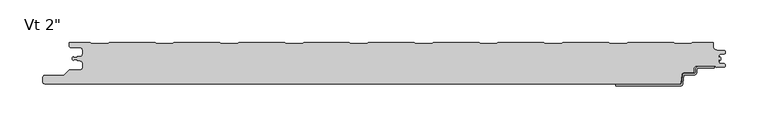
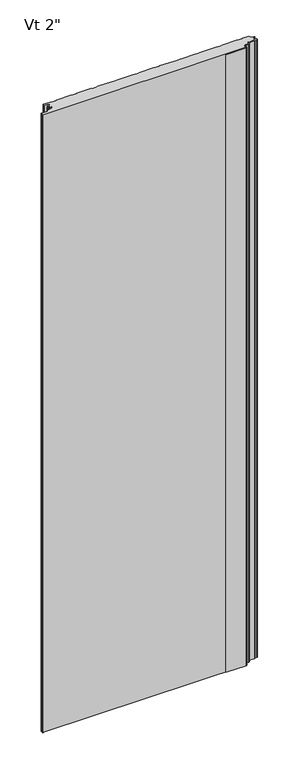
"""IFC4 building model written with IfcOpenShell, lengths in millimetres: plate geometry."""

from ifc_helpers import new_model, si_unit, frame, origin, place, context, project, spatial, polyline, circle_curve, source, transform, mapped, element, save
from ifc_brep_helpers import plane_surface, cylinder_surface, revolved_surface, advanced_brep


def plate_afb5f473(model_context):
    return source(origin(), model_context, "Body", "AdvancedBrep", [
        advanced_brep(
        [(354.8464083, -29.7008679, 0.0), (373.5916083, -29.7008679, 0.0), (373.5916083, -31.2248679, 0.0), (354.8464083, -31.2248679, 0.0), (353.3224083, -32.7488679, 0.0), (353.3224083, -35.8476679, 0.0), (349.8680083, -39.3020679, 0.0), (338.655451, -39.3020679, 0.0), (337.8963506, -39.9976552, 0.0), (336.701523, -49.5416507, 0.0), (333.6651216, -52.324, 0.0), (258.0978083, -52.3360323, 0.0), (258.0978083, -50.8, 0.0), (333.6651216, -50.8, 0.0), (335.1833223, -49.4088254, 0.0), (336.3781499, -39.8648299, 0.0), (338.655451, -37.7780679, 0.0), (349.8680083, -37.7780679, 0.0), (351.7984083, -35.8476679, 0.0), (351.7984083, -32.7488679, 0.0), (354.8464083, -29.7008679, 2400.0), (351.7984083, -32.7488679, 2400.0), (351.7984083, -35.8476679, 2400.0), (349.8680083, -37.7780679, 2400.0), (338.655451, -37.7780679, 2400.0), (336.3781499, -39.8648299, 2400.0), (335.1833223, -49.4088254, 2400.0), (333.6651216, -50.8, 2400.0), (258.0978083, -50.8, 2400.0), (258.0978083, -52.3360323, 2400.0), (333.6651216, -52.3360323, 2400.0), (336.701523, -49.5416507, 2400.0), (337.8963506, -39.9976552, 2400.0), (338.655451, -39.3020679, 2400.0), (349.8680083, -39.3020679, 2400.0), (353.3224083, -35.8476679, 2400.0), (353.3224083, -32.7488679, 2400.0), (354.8464083, -31.2248679, 2400.0), (373.5916083, -31.2248679, 2400.0), (373.5916083, -29.7008679, 2400.0)],
        [
            (0, 1),
            (1, 2),
            (2, 3),
            (3, 4, circle_curve(frame((354.8464083, -32.7488679, 0.0), z_axis=(0.0, 0.0, 1.0), x_axis=(0.0, 1.0, 0.0)), 1.524)),
            (4, 5),
            (5, 6, circle_curve(frame((349.8680083, -35.8476679, 0.0), z_axis=(0.0, 0.0, -1.0), x_axis=(0.0, 1.0, 0.0)), 3.4544)),
            (6, 7),
            (7, 8, circle_curve(frame((338.655451, -40.0640679, 0.0), z_axis=(0.0, 0.0, 1.0), x_axis=(0.0, 1.0, 0.0)), 0.762)),
            (8, 9),
            (9, 10, circle_curve(frame((333.6651216, -49.276, 0.0), z_axis=(0.0, 0.0, -1.0), x_axis=(0.0, 1.0, 0.0)), 3.048)),
            (10, 11),
            (11, 12),
            (12, 13),
            (13, 14, circle_curve(frame((333.6651216, -49.276, 0.0), z_axis=(0.0, 0.0, 1.0), x_axis=(0.0, 1.0, 0.0)), 1.524)),
            (14, 15),
            (15, 16, circle_curve(frame((338.655451, -40.0640679, 0.0), z_axis=(0.0, 0.0, -1.0), x_axis=(0.0, 1.0, 0.0)), 2.286)),
            (16, 17),
            (17, 18, circle_curve(frame((349.8680083, -35.8476679, 0.0), z_axis=(0.0, 0.0, 1.0), x_axis=(0.0, 1.0, 0.0)), 1.9304)),
            (18, 19),
            (19, 0, circle_curve(frame((354.8464083, -32.7488679, 0.0), z_axis=(0.0, 0.0, -1.0), x_axis=(0.0, 1.0, 0.0)), 3.048)),
            (20, 21, circle_curve(frame((354.8464083, -32.7488679, 2400.0), z_axis=(0.0, 0.0, 1.0), x_axis=(0.0, 1.0, 0.0)), 3.048)),
            (21, 22),
            (22, 23, circle_curve(frame((349.8680083, -35.8476679, 2400.0), z_axis=(0.0, 0.0, -1.0), x_axis=(0.0, 1.0, 0.0)), 1.9304)),
            (23, 24),
            (24, 25, circle_curve(frame((338.655451, -40.0640679, 2400.0), z_axis=(0.0, 0.0, 1.0), x_axis=(0.0, 1.0, 0.0)), 2.286)),
            (25, 26),
            (26, 27, circle_curve(frame((333.6651216, -49.276, 2400.0), z_axis=(0.0, 0.0, -1.0), x_axis=(0.0, 1.0, 0.0)), 1.524)),
            (27, 28),
            (28, 29),
            (29, 30),
            (30, 31, circle_curve(frame((333.6651216, -49.276, 2400.0), z_axis=(0.0, 0.0, 1.0), x_axis=(0.0, 1.0, 0.0)), 3.048)),
            (31, 32),
            (32, 33, circle_curve(frame((338.655451, -40.0640679, 2400.0), z_axis=(0.0, 0.0, -1.0), x_axis=(0.0, 1.0, 0.0)), 0.762)),
            (33, 34),
            (34, 35, circle_curve(frame((349.8680083, -35.8476679, 2400.0), z_axis=(0.0, 0.0, 1.0), x_axis=(0.0, 1.0, 0.0)), 3.4544)),
            (35, 36),
            (36, 37, circle_curve(frame((354.8464083, -32.7488679, 2400.0), z_axis=(0.0, 0.0, -1.0), x_axis=(0.0, 1.0, 0.0)), 1.524)),
            (37, 38),
            (38, 39),
            (39, 20),
            (2, 38),
            (37, 3),
            (15, 25),
            (24, 16),
            (7, 33),
            (32, 8),
            (5, 35),
            (34, 6),
            (1, 39),
            (36, 4),
            (9, 31),
            (30, 10),
            (13, 27),
            (26, 14),
            (0, 20),
            (12, 28),
            (29, 11),
            (23, 17),
            (18, 22),
            (21, 19),
        ],
        [
            plane_surface(frame((373.5916083, -50.8, 0.0), z_axis=(0.0, 0.0, -1.0), x_axis=(-1.0, 0.0, 0.0))),
            plane_surface(frame((373.5916083, -50.8, 2400.0), z_axis=(0.0, 0.0, 1.0), x_axis=(-1.0, 0.0, 0.0))),
            plane_surface(frame((354.8464083, -31.2248679, 0.0), z_axis=(0.0, -1.0, 0.0), x_axis=(0.0, 0.0, 1.0))),
            cylinder_surface(frame((338.655451, -40.0640679, 0.0), z_axis=(0.0, 0.0, -1.0), x_axis=(0.0, 1.0, 0.0)), 2.286),
            revolved_surface(polyline([(338.655451, -39.3020679, 2400.0), (338.655451, -39.3020679, 0.0)]), (338.655451, -40.0640679, 0.0), (0.0, 0.0, 1.0)),
            cylinder_surface(frame((349.8680083, -35.8476679, 0.0), z_axis=(0.0, 0.0, -1.0), x_axis=(0.0, 1.0, 0.0)), 3.4544),
            plane_surface(frame((373.5916083, -31.2248679, 0.0), z_axis=(1.0, 0.0, 0.0), x_axis=(0.0, 0.0, 1.0))),
            revolved_surface(polyline([(354.8464083, -31.2248679, 2400.0), (354.8464083, -31.2248679, 0.0)]), (354.8464083, -32.7488679, 0.0), (0.0, 0.0, 1.0)),
            cylinder_surface(frame((333.6651216, -49.276, 0.0), z_axis=(0.0, 0.0, -1.0), x_axis=(0.0, 1.0, 0.0)), 3.048),
            revolved_surface(polyline([(333.6651216, -47.752, 2400.0), (333.6651216, -47.752, 0.0)]), (333.6651216, -49.276, 0.0), (0.0, 0.0, 1.0)),
            plane_surface(frame((373.5916083, -29.7008679, 0.0), z_axis=(0.0, 1.0, 0.0), x_axis=(0.0, 0.0, 1.0))),
            plane_surface(frame((336.3781499, -39.8648299, 0.0), z_axis=(-0.9922544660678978, 0.12422187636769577, 0.0), x_axis=(0.0, 0.0, 1.0))),
            plane_surface(frame((333.6651216, -50.8, 0.0), z_axis=(0.0, 1.0, 0.0), x_axis=(0.0, 0.0, 1.0))),
            plane_surface(frame((336.701523, -49.5416507, 0.0), z_axis=(0.9922544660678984, -0.12422187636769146, 0.0), x_axis=(0.0, 0.0, 1.0))),
            plane_surface(frame((353.3224083, -35.8476679, 0.0), z_axis=(1.0, 0.0, 0.0), x_axis=(0.0, 0.0, 1.0))),
            plane_surface(frame((258.0978083, -52.3360323, 0.0), z_axis=(0.0, -1.0, 0.0), x_axis=(0.0, 0.0, 1.0))),
            plane_surface(frame((258.0978083, -50.8, 0.0), z_axis=(-1.0, 0.0, 0.0), x_axis=(0.0, 0.0, 1.0))),
            plane_surface(frame((349.8680083, -37.7780679, 0.0), z_axis=(0.0, 1.0, 0.0), x_axis=(0.0, 0.0, 1.0))),
            plane_surface(frame((351.7984083, -32.7488679, 0.0), z_axis=(-1.0, 0.0, 0.0), x_axis=(0.0, 0.0, 1.0))),
            plane_surface(frame((338.655451, -39.3020679, 0.0), z_axis=(0.0, -1.0, 0.0), x_axis=(0.0, 0.0, 1.0))),
            revolved_surface(polyline([(349.8680083, -33.9172679, 2400.0), (349.8680083, -33.9172679, 0.0)]), (349.8680083, -35.8476679, 0.0), (0.0, 0.0, 1.0)),
            cylinder_surface(frame((354.8464083, -32.7488679, 0.0), z_axis=(0.0, 0.0, -1.0), x_axis=(0.0, 1.0, 0.0)), 3.048),
        ],
        [
            (0, [[1, 2, 3, 4, 5, 6, 7, 8, 9, 10, 11, 12, 13, 14, 15, 16, 17, 18, 19, 20]]),
            (1, [[21, 22, 23, 24, 25, 26, 27, 28, 29, 30, 31, 32, 33, 34, 35, 36, 37, 38, 39, 40]]),
            (2, [[41, -38, 42, -3]]),
            (3, [[43, -25, 44, -16]]),
            (4, [[45, -33, 46, -8]]),
            (5, [[47, -35, 48, -6]]),
            (6, [[49, -39, -41, -2]]),
            (7, [[-42, -37, 50, -4]]),
            (8, [[51, -31, 52, -10]]),
            (9, [[53, -27, 54, -14]]),
            (10, [[55, -40, -49, -1]]),
            (11, [[-54, -26, -43, -15]]),
            (12, [[56, -28, -53, -13]]),
            (13, [[-46, -32, -51, -9]]),
            (14, [[-50, -36, -47, -5]]),
            (15, [[-52, -30, 57, -11]]),
            (16, [[-57, -29, -56, -12]]),
            (17, [[-44, -24, 58, -17]]),
            (18, [[59, -22, 60, -19]]),
            (19, [[-48, -34, -45, -7]]),
            (20, [[-58, -23, -59, -18]]),
            (21, [[-60, -21, -55, -20]]),
        ],
    ),
        advanced_brep(
        [(-379.9683001, -22.4708722, 2400.0), (-378.7671761, -21.3013975, 2400.0), (-375.0087827, -21.3013975, 2400.0), (-375.0087827, -22.6998764, 2400.0), (-372.3096717, -22.6998764, 2400.0), (-368.9596764, -26.0498717, 2400.0), (-368.9596764, -30.4498629, 2400.0), (-372.3096717, -33.7998582, 2400.0), (-384.1205608, -33.7998582, 2400.0), (-385.3226385, -34.2977751, 2400.0), (-390.8247096, -39.7998462, 2400.0), (-412.9198392, -39.7998462, 2400.0), (-415.5765709, -42.0184482, 2400.0), (-416.0125699, -47.0002691, 2400.0), (-413.4521176, -49.794594, 2400.0), (332.515622, -49.7999973, 2400.0), (334.4669057, -48.0149232, 2400.0), (335.221161, -39.5539464, 2400.0), (338.3653654, -36.7906435, 2400.0), (348.4583308, -36.7906435, 2400.0), (349.4097394, -35.8392348, 2400.0), (349.4097394, -32.6955794, 2400.0), (353.4091924, -28.6961265, 2400.0), (374.5895515, -28.6961265, 2400.0), (375.7334028, -30.6769743, 2400.0), (384.706811, -30.321714, 2400.0), (384.7037148, -26.1211364, 2400.0), (380.6977997, -25.8767215, 2400.0), (378.9686884, -24.0819089, 2400.0), (378.9686884, -21.2973623, 2400.0), (379.9686884, -21.2973623, 2400.0), (379.9686884, -22.8848623, 2400.0), (381.0, -21.8535507, 2400.0), (381.0, -18.6247941, 2400.0), (379.9686884, -17.5934824, 2400.0), (379.9686884, -19.0078704, 2400.0), (378.9686884, -19.0078704, 2400.0), (378.9686884, -16.6806877, 2400.0), (380.6513685, -14.9319845, 2400.0), (384.7921924, -14.7123238, 2400.0), (384.7931719, -10.4109858, 2400.0), (376.3016499, -10.0037781, 2400.0), (372.4787013, -6.0089423, 2400.0), (372.4787013, -1.0063416, 2400.0), (347.9787915, -1.0063416, 2400.0), (346.5931585, -2.2065723, 2400.0), (327.2179922, -2.2065723, 2400.0), (325.8323593, -1.0063416, 2400.0), (271.7789439, -1.0063416, 2400.0), (270.3933109, -2.2065723, 2400.0), (251.0181446, -2.2065723, 2400.0), (249.6325117, -1.0063416, 2400.0), (195.5790963, -1.0063416, 2400.0), (194.1934633, -2.2065723, 2400.0), (174.818297, -2.2065723, 2400.0), (173.4326641, -1.0063416, 2400.0), (119.3792487, -1.0063416, 2400.0), (117.9936157, -2.2065723, 2400.0), (98.6184494, -2.2065723, 2400.0), (97.2328165, -1.0063416, 2400.0), (43.1794011, -1.0063416, 2400.0), (41.7937681, -2.2065723, 2400.0), (22.4186018, -2.2065723, 2400.0), (21.0329689, -1.0063416, 2400.0), (-33.0204465, -1.0063416, 2400.0), (-34.4060795, -2.2065723, 2400.0), (-53.7812458, -2.2065723, 2400.0), (-55.1668787, -1.0063416, 2400.0), (-109.2202941, -1.0063416, 2400.0), (-110.6059271, -2.2065723, 2400.0), (-129.9810934, -2.2065723, 2400.0), (-131.3667263, -1.0063416, 2400.0), (-185.4201417, -1.0063416, 2400.0), (-186.8057747, -2.2065723, 2400.0), (-206.180941, -2.2065723, 2400.0), (-207.5665739, -1.0063416, 2400.0), (-261.6199893, -1.0063416, 2400.0), (-263.0056223, -2.2065723, 2400.0), (-282.3807886, -2.2065723, 2400.0), (-283.7664215, -1.0063416, 2400.0), (-337.8198369, -1.0063416, 2400.0), (-339.2054699, -2.2065723, 2400.0), (-358.5806362, -2.2065723, 2400.0), (-359.9662691, -1.0063416, 2400.0), (-384.4662506, -1.0063416, 2400.0), (-384.4662506, -5.2378805, 2400.0), (-382.6962564, -7.0078747, 2400.0), (-372.2762778, -7.0078747, 2400.0), (-368.976282, -10.3078706, 2400.0), (-368.976282, -14.7078618, 2400.0), (-372.2762777, -18.0078575, 2400.0), (-374.9684875, -18.0078575, 2400.0), (-374.9684875, -19.007852, 2400.0), (-378.9686911, -19.007852, 2400.0), (-379.9686883, -18.0078607, 2400.0), (-381.0, -19.0391724, 2400.0), (-381.0, -21.4391724, 2400.0), (-379.9683001, -22.4708722, 0.0), (-381.0, -21.4391724, 0.0), (-381.0, -19.0391724, 0.0), (-379.9686883, -18.0078607, 0.0), (-378.9686911, -19.007852, 0.0), (-374.9684875, -19.007852, 0.0), (-374.9684875, -18.0078575, 0.0), (-372.2762777, -18.0078575, 0.0), (-368.976282, -14.7078618, 0.0), (-368.976282, -10.3078706, 0.0), (-372.2762778, -7.0078747, 0.0), (-382.6962564, -7.0078747, 0.0), (-384.4662506, -5.2378805, 0.0), (-384.4662506, -1.0063416, 0.0), (-359.9662691, -1.0063416, 0.0), (-358.5806362, -2.2065723, 0.0), (-339.2054699, -2.2065723, 0.0), (-337.8198369, -1.0063416, 0.0), (-283.7664215, -1.0063416, 0.0), (-282.3807886, -2.2065723, 0.0), (-263.0056223, -2.2065723, 0.0), (-261.6199893, -1.0063416, 0.0), (-207.5665739, -1.0063416, 0.0), (-206.180941, -2.2065723, 0.0), (-186.8057747, -2.2065723, 0.0), (-185.4201417, -1.0063416, 0.0), (-131.3667263, -1.0063416, 0.0), (-129.9810934, -2.2065723, 0.0), (-110.6059271, -2.2065723, 0.0), (-109.2202941, -1.0063416, 0.0), (-55.1668787, -1.0063416, 0.0), (-53.7812458, -2.2065723, 0.0), (-34.4060795, -2.2065723, 0.0), (-33.0204465, -1.0063416, 0.0), (21.0329689, -1.0063416, 0.0), (22.4186018, -2.2065723, 0.0), (41.7937681, -2.2065723, 0.0), (43.1794011, -1.0063416, 0.0), (97.2328165, -1.0063416, 0.0), (98.6184494, -2.2065723, 0.0), (117.9936157, -2.2065723, 0.0), (119.3792487, -1.0063416, 0.0), (173.4326641, -1.0063416, 0.0), (174.818297, -2.2065723, 0.0), (194.1934633, -2.2065723, 0.0), (195.5790963, -1.0063416, 0.0), (249.6325117, -1.0063416, 0.0), (251.0181446, -2.2065723, 0.0), (270.3933109, -2.2065723, 0.0), (271.7789439, -1.0063416, 0.0), (325.8323593, -1.0063416, 0.0), (327.2179922, -2.2065723, 0.0), (346.5931585, -2.2065723, 0.0), (347.9787915, -1.0063416, 0.0), (372.4787013, -1.0063416, 0.0), (372.4787013, -6.0089423, 0.0), (376.3016499, -10.0037781, 0.0), (384.7931719, -10.4109858, 0.0), (384.7921924, -14.7123238, 0.0), (380.6513685, -14.9319845, 0.0), (378.9686884, -16.6806877, 0.0), (378.9686884, -19.0078704, 0.0), (379.9686884, -19.0078704, 0.0), (379.9686884, -17.5934824, 0.0), (381.0, -18.6247941, 0.0), (381.0, -21.8535507, 0.0), (379.9686884, -22.8848623, 0.0), (379.9686884, -21.2973623, 0.0), (378.9686884, -21.2973623, 0.0), (378.9686884, -24.0819089, 0.0), (380.6977997, -25.8767215, 0.0), (384.7037148, -26.1211364, 0.0), (384.706811, -30.321714, 0.0), (375.7334028, -30.6769743, 0.0), (374.5895515, -28.6961265, 0.0), (353.4091924, -28.6961265, 0.0), (349.4097394, -32.6955794, 0.0), (349.4097394, -35.8392348, 0.0), (348.4583308, -36.7906435, 0.0), (338.3653654, -36.7906435, 0.0), (335.221161, -39.5539464, 0.0), (334.4669057, -48.0149232, 0.0), (332.515622, -49.7999973, 0.0), (-413.4521176, -49.7999973, 0.0), (-416.0125699, -47.0002691, 0.0), (-415.5765709, -42.0184482, 0.0), (-412.9198392, -39.7998462, 0.0), (-390.8247096, -39.7998462, 0.0), (-385.3226385, -34.2977751, 0.0), (-384.1205608, -33.7998582, 0.0), (-372.3096717, -33.7998582, 0.0), (-368.9596764, -30.4498629, 0.0), (-368.9596764, -26.0498717, 0.0), (-372.3096717, -22.6998764, 0.0), (-375.0087827, -22.6998764, 0.0), (-375.0087827, -21.3013975, 0.0), (-378.7671761, -21.3013975, 0.0)],
        [
            (0, 1, circle_curve(frame((-378.7686908, -22.5013942, 2400.0), z_axis=(0.0, 0.0, -1.0), x_axis=(-1.0, 0.0, 0.0)), 1.1999976)),
            (1, 2),
            (2, 3),
            (3, 4),
            (4, 5, circle_curve(frame((-372.3096717, -26.0498717, 2400.0), z_axis=(0.0, 0.0, -1.0), x_axis=(-1.0, 0.0, 0.0)), 3.3499953)),
            (5, 6),
            (6, 7, circle_curve(frame((-372.3096717, -30.4498629, 2400.0), z_axis=(0.0, 0.0, -1.0), x_axis=(-1.0, 0.0, 0.0)), 3.3499953)),
            (7, 8),
            (8, 9, circle_curve(frame((-384.1205608, -35.4998528, 2400.0), z_axis=(0.0, 0.0, 1.0), x_axis=(-1.0, 0.0, 0.0)), 1.6999946)),
            (9, 10),
            (10, 11),
            (11, 12, circle_curve(frame((-412.9198392, -42.4998388, 2400.0), z_axis=(0.0, 0.0, 1.0), x_axis=(-1.0, 0.0, 0.0)), 2.6999926)),
            (12, 13),
            (13, 14, circle_curve(frame((-413.4521176, -47.2243547, 2400.0), z_axis=(0.0, 0.0, 1.0), x_axis=(-1.0, 0.0, 0.0)), 2.5702393)),
            (14, 15),
            (15, 16, circle_curve(frame((332.515622, -47.8409756, 2400.0), z_axis=(0.0, 0.0, 1.0), x_axis=(-1.0, 0.0, 0.0)), 1.9590216)),
            (16, 17),
            (17, 18, circle_curve(frame((338.2396267, -39.8180294, 2400.0), z_axis=(0.0, 0.0, -1.0), x_axis=(-1.0, 0.0, 0.0)), 3.0299959)),
            (18, 19),
            (19, 20, circle_curve(frame((348.4583308, -35.8392348, 2400.0), z_axis=(0.0, 0.0, 1.0), x_axis=(-1.0, 0.0, 0.0)), 0.9514087)),
            (20, 21),
            (21, 22, circle_curve(frame((353.4091924, -32.6955794, 2400.0), z_axis=(0.0, 0.0, -1.0), x_axis=(-1.0, 0.0, 0.0)), 3.9994529)),
            (22, 23),
            (23, 24),
            (24, 25),
            (25, 26, circle_curve(frame((384.6236622, -28.2214853, 2400.0), z_axis=(0.0, 0.0, 1.0), x_axis=(-1.0, 0.0, 0.0)), 2.1018739)),
            (26, 27),
            (27, 28, circle_curve(frame((380.8099653, -24.0383479, 2400.0), z_axis=(0.0, 0.0, -1.0), x_axis=(-1.0, 0.0, 0.0)), 1.8417922)),
            (28, 29),
            (29, 30),
            (30, 31),
            (31, 32),
            (32, 33),
            (33, 34),
            (34, 35),
            (35, 36),
            (36, 37),
            (37, 38, circle_curve(frame((380.7186869, -16.6806877, 2400.0), z_axis=(0.0, 0.0, -1.0), x_axis=(-1.0, 0.0, 0.0)), 1.7499985)),
            (38, 39),
            (39, 40, circle_curve(frame((384.6781032, -12.5616287, 2400.0), z_axis=(0.0, 0.0, 1.0), x_axis=(-1.0, 0.0, 0.0)), 2.153719)),
            (40, 41),
            (41, 42, circle_curve(frame((376.4939817, -5.9930754, 2400.0), z_axis=(0.0, 0.0, -1.0), x_axis=(-1.0, 0.0, 0.0)), 4.0153117)),
            (42, 43),
            (43, 44),
            (44, 45),
            (45, 46),
            (46, 47),
            (47, 48),
            (48, 49),
            (49, 50),
            (50, 51),
            (51, 52),
            (52, 53),
            (53, 54),
            (54, 55),
            (55, 56),
            (56, 57),
            (57, 58),
            (58, 59),
            (59, 60),
            (60, 61),
            (61, 62),
            (62, 63),
            (63, 64),
            (64, 65),
            (65, 66),
            (66, 67),
            (67, 68),
            (68, 69),
            (69, 70),
            (70, 71),
            (71, 72),
            (72, 73),
            (73, 74),
            (74, 75),
            (75, 76),
            (76, 77),
            (77, 78),
            (78, 79),
            (79, 80),
            (80, 81),
            (81, 82),
            (82, 83),
            (83, 84),
            (84, 85),
            (85, 86, circle_curve(frame((-382.6962564, -5.2378805, 2400.0), z_axis=(0.0, 0.0, 1.0), x_axis=(-1.0, 0.0, 0.0)), 1.7699942)),
            (86, 87),
            (87, 88, circle_curve(frame((-372.2762778, -10.3078706, 2400.0), z_axis=(0.0, 0.0, -1.0), x_axis=(-1.0, 0.0, 0.0)), 3.2999959)),
            (88, 89),
            (89, 90, circle_curve(frame((-372.2762777, -14.7078618, 2400.0), z_axis=(0.0, 0.0, -1.0), x_axis=(-1.0, 0.0, 0.0)), 3.2999957)),
            (90, 91),
            (91, 92),
            (92, 93),
            (93, 94, circle_curve(frame((-378.9686911, -18.0078548, 2400.0), z_axis=(0.0, 0.0, -1.0), x_axis=(-1.0, 0.0, 0.0)), 0.9999972)),
            (94, 95),
            (95, 96),
            (96, 0),
            (97, 98),
            (98, 99),
            (99, 100),
            (100, 101, circle_curve(frame((-378.9686911, -18.0078548, 0.0), z_axis=(0.0, 0.0, 1.0), x_axis=(-1.0, 0.0, 0.0)), 0.9999972)),
            (101, 102),
            (102, 103),
            (103, 104),
            (104, 105, circle_curve(frame((-372.2762777, -14.7078618, 0.0), z_axis=(0.0, 0.0, 1.0), x_axis=(-1.0, 0.0, 0.0)), 3.2999957)),
            (105, 106),
            (106, 107, circle_curve(frame((-372.2762778, -10.3078706, 0.0), z_axis=(0.0, 0.0, 1.0), x_axis=(-1.0, 0.0, 0.0)), 3.2999959)),
            (107, 108),
            (108, 109, circle_curve(frame((-382.6962564, -5.2378805, 0.0), z_axis=(0.0, 0.0, -1.0), x_axis=(-1.0, 0.0, 0.0)), 1.7699942)),
            (109, 110),
            (110, 111),
            (111, 112),
            (112, 113),
            (113, 114),
            (114, 115),
            (115, 116),
            (116, 117),
            (117, 118),
            (118, 119),
            (119, 120),
            (120, 121),
            (121, 122),
            (122, 123),
            (123, 124),
            (124, 125),
            (125, 126),
            (126, 127),
            (127, 128),
            (128, 129),
            (129, 130),
            (130, 131),
            (131, 132),
            (132, 133),
            (133, 134),
            (134, 135),
            (135, 136),
            (136, 137),
            (137, 138),
            (138, 139),
            (139, 140),
            (140, 141),
            (141, 142),
            (142, 143),
            (143, 144),
            (144, 145),
            (145, 146),
            (146, 147),
            (147, 148),
            (148, 149),
            (149, 150),
            (150, 151),
            (151, 152),
            (152, 153, circle_curve(frame((376.4939817, -5.9930754, 0.0), z_axis=(0.0, 0.0, 1.0), x_axis=(-1.0, 0.0, 0.0)), 4.0153117)),
            (153, 154),
            (154, 155, circle_curve(frame((384.6781032, -12.5616287, 0.0), z_axis=(0.0, 0.0, -1.0), x_axis=(-1.0, 0.0, 0.0)), 2.153719)),
            (155, 156),
            (156, 157, circle_curve(frame((380.7186869, -16.6806877, 0.0), z_axis=(0.0, 0.0, 1.0), x_axis=(-1.0, 0.0, 0.0)), 1.7499985)),
            (157, 158),
            (158, 159),
            (159, 160),
            (160, 161),
            (161, 162),
            (162, 163),
            (163, 164),
            (164, 165),
            (165, 166),
            (166, 167, circle_curve(frame((380.8099653, -24.0383479, 0.0), z_axis=(0.0, 0.0, 1.0), x_axis=(-1.0, 0.0, 0.0)), 1.8417922)),
            (167, 168),
            (168, 169, circle_curve(frame((384.6236622, -28.2214853, 0.0), z_axis=(0.0, 0.0, -1.0), x_axis=(-1.0, 0.0, 0.0)), 2.1018739)),
            (169, 170),
            (170, 171),
            (171, 172),
            (172, 173, circle_curve(frame((353.4091924, -32.6955794, 0.0), z_axis=(0.0, 0.0, 1.0), x_axis=(-1.0, 0.0, 0.0)), 3.9994529)),
            (173, 174),
            (174, 175, circle_curve(frame((348.4583308, -35.8392348, 0.0), z_axis=(0.0, 0.0, -1.0), x_axis=(-1.0, 0.0, 0.0)), 0.9514087)),
            (175, 176),
            (176, 177, circle_curve(frame((338.2396267, -39.8180294, 0.0), z_axis=(0.0, 0.0, 1.0), x_axis=(-1.0, 0.0, 0.0)), 3.0299959)),
            (177, 178),
            (178, 179, circle_curve(frame((332.515622, -47.8409756, 0.0), z_axis=(0.0, 0.0, -1.0), x_axis=(-1.0, 0.0, 0.0)), 1.9590216)),
            (179, 180),
            (180, 181, circle_curve(frame((-413.4521176, -47.2243547, 0.0), z_axis=(0.0, 0.0, -1.0), x_axis=(-1.0, 0.0, 0.0)), 2.5702393)),
            (181, 182),
            (182, 183, circle_curve(frame((-412.9198392, -42.4998388, 0.0), z_axis=(0.0, 0.0, -1.0), x_axis=(-1.0, 0.0, 0.0)), 2.6999926)),
            (183, 184),
            (184, 185),
            (185, 186, circle_curve(frame((-384.1205608, -35.4998528, 0.0), z_axis=(0.0, 0.0, -1.0), x_axis=(-1.0, 0.0, 0.0)), 1.6999946)),
            (186, 187),
            (187, 188, circle_curve(frame((-372.3096717, -30.4498629, 0.0), z_axis=(0.0, 0.0, 1.0), x_axis=(-1.0, 0.0, 0.0)), 3.3499953)),
            (188, 189),
            (189, 190, circle_curve(frame((-372.3096717, -26.0498717, 0.0), z_axis=(0.0, 0.0, 1.0), x_axis=(-1.0, 0.0, 0.0)), 3.3499953)),
            (190, 191),
            (191, 192),
            (192, 193),
            (193, 97, circle_curve(frame((-378.7686908, -22.5013942, 0.0), z_axis=(0.0, 0.0, 1.0), x_axis=(-1.0, 0.0, 0.0)), 1.1999976)),
            (96, 98),
            (97, 0),
            (95, 99),
            (94, 100),
            (93, 101),
            (92, 102),
            (91, 103),
            (90, 104),
            (89, 105),
            (88, 106),
            (87, 107),
            (86, 108),
            (85, 109),
            (84, 110),
            (42, 152),
            (151, 43),
            (41, 153),
            (40, 154),
            (39, 155),
            (38, 156),
            (37, 157),
            (36, 158),
            (35, 159),
            (34, 160),
            (33, 161),
            (32, 162),
            (31, 163),
            (30, 164),
            (29, 165),
            (28, 166),
            (27, 167),
            (26, 168),
            (25, 169),
            (24, 170),
            (23, 171),
            (22, 172),
            (21, 173),
            (20, 174),
            (19, 175),
            (18, 176),
            (17, 177),
            (16, 178),
            (15, 179),
            (14, 180),
            (13, 181),
            (12, 182),
            (11, 183),
            (10, 184),
            (9, 185),
            (8, 186),
            (7, 187),
            (6, 188),
            (5, 189),
            (4, 190),
            (3, 191),
            (2, 192),
            (1, 193),
            (83, 111),
            (82, 112),
            (81, 113),
            (80, 114),
            (79, 115),
            (78, 116),
            (77, 117),
            (76, 118),
            (75, 119),
            (74, 120),
            (73, 121),
            (72, 122),
            (71, 123),
            (70, 124),
            (69, 125),
            (68, 126),
            (67, 127),
            (66, 128),
            (65, 129),
            (64, 130),
            (63, 131),
            (62, 132),
            (61, 133),
            (60, 134),
            (59, 135),
            (58, 136),
            (57, 137),
            (56, 138),
            (55, 139),
            (54, 140),
            (53, 141),
            (52, 142),
            (51, 143),
            (50, 144),
            (49, 145),
            (48, 146),
            (47, 147),
            (46, 148),
            (45, 149),
            (44, 150),
        ],
        [
            plane_surface(frame((0.0, -49.7999973, 2400.0), z_axis=(0.0, 0.0, 1.0), x_axis=(0.0, -1.0, 0.0))),
            plane_surface(frame((0.0, -49.7999973, 0.0), z_axis=(0.0, 0.0, -1.0), x_axis=(0.0, -1.0, 0.0))),
            plane_surface(frame((-379.9683001, -22.4708722, 2400.0), z_axis=(-0.7071067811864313, -0.7071067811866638, 0.0), x_axis=(0.0, 0.0, -1.0))),
            plane_surface(frame((-381.0, -21.4391724, 2400.0), z_axis=(-1.0, 0.0, 0.0), x_axis=(0.0, 0.0, -1.0))),
            plane_surface(frame((-381.0, -19.0391724, 2400.0), z_axis=(-0.70710678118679, 0.707106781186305, 0.0), x_axis=(0.0, 0.0, -1.0))),
            revolved_surface(polyline([(-379.9686883, -18.0078548, 0.0), (-379.9686883, -18.0078548, 2400.0)]), (-378.9686911, -18.0078548, 2400.0), (0.0, 0.0, -1.0)),
            plane_surface(frame((-378.9686911, -19.007852, 2400.0), z_axis=(0.0, 1.0, 0.0), x_axis=(0.0, 0.0, -1.0))),
            plane_surface(frame((-374.9684875, -19.007852, 2400.0), z_axis=(-1.0, 0.0, 0.0), x_axis=(0.0, 0.0, -1.0))),
            plane_surface(frame((-374.9684875, -18.0078575, 2400.0), z_axis=(0.0, 1.0, 0.0), x_axis=(0.0, 0.0, -1.0))),
            revolved_surface(polyline([(-375.5762734, -14.7078618, 0.0), (-375.5762734, -14.7078618, 2400.0)]), (-372.2762777, -14.7078618, 2400.0), (0.0, 0.0, -1.0)),
            plane_surface(frame((-368.976282, -14.7078618, 2400.0), z_axis=(-1.0, 0.0, 0.0), x_axis=(0.0, 0.0, -1.0))),
            revolved_surface(polyline([(-375.5762737, -10.3078706, 0.0), (-375.5762737, -10.3078706, 2400.0)]), (-372.2762778, -10.3078706, 2400.0), (0.0, 0.0, -1.0)),
            plane_surface(frame((-372.2762778, -7.0078747, 2400.0), z_axis=(0.0, -1.0, 0.0), x_axis=(0.0, 0.0, -1.0))),
            cylinder_surface(frame((-382.6962564, -5.2378805, 2400.0), z_axis=(0.0, 0.0, 1.0), x_axis=(-1.0, 0.0, 0.0)), 1.7699942),
            plane_surface(frame((-384.4662506, -5.2378805, 2400.0), z_axis=(-1.0, 0.0, 0.0), x_axis=(0.0, 0.0, -1.0))),
            plane_surface(frame((372.4787013, -1.0063416, 2400.0), z_axis=(1.0, 0.0, 0.0), x_axis=(0.0, 0.0, -1.0))),
            revolved_surface(polyline([(372.47867, -5.9930754, 0.0), (372.47867, -5.9930754, 2400.0)]), (376.4939817, -5.9930754, 2400.0), (0.0, 0.0, -1.0)),
            plane_surface(frame((376.3016499, -10.0037781, 2400.0), z_axis=(0.04789957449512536, 0.9988521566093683, 0.0), x_axis=(0.0, 0.0, -1.0))),
            cylinder_surface(frame((384.6781032, -12.5616287, 2400.0), z_axis=(0.0, 0.0, 1.0), x_axis=(-1.0, 0.0, 0.0)), 2.153719),
            plane_surface(frame((384.7921924, -14.7123238, 2400.0), z_axis=(0.05297310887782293, -0.9985959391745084, 0.0), x_axis=(0.0, 0.0, -1.0))),
            revolved_surface(polyline([(378.9686884, -16.6806877, 0.0), (378.9686884, -16.6806877, 2400.0)]), (380.7186869, -16.6806877, 2400.0), (0.0, 0.0, -1.0)),
            plane_surface(frame((378.9686884, -16.6806877, 2400.0), z_axis=(1.0, 0.0, 0.0), x_axis=(0.0, 0.0, -1.0))),
            plane_surface(frame((378.9686884, -19.0078704, 2400.0), z_axis=(0.0, 1.0, 0.0), x_axis=(0.0, 0.0, -1.0))),
            plane_surface(frame((379.9686884, -19.0078704, 2400.0), z_axis=(-1.0, 0.0, 0.0), x_axis=(0.0, 0.0, -1.0))),
            plane_surface(frame((379.9686884, -17.5934824, 2400.0), z_axis=(0.7071067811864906, 0.7071067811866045, 0.0), x_axis=(0.0, 0.0, -1.0))),
            plane_surface(frame((381.0, -18.6247941, 2400.0), z_axis=(1.0, 0.0, 0.0), x_axis=(0.0, 0.0, -1.0))),
            plane_surface(frame((381.0, -21.8535507, 2400.0), z_axis=(0.7071067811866, -0.7071067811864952, 0.0), x_axis=(0.0, 0.0, -1.0))),
            plane_surface(frame((379.9686884, -22.8848623, 2400.0), z_axis=(-1.0, 0.0, 0.0), x_axis=(0.0, 0.0, -1.0))),
            plane_surface(frame((379.9686884, -21.2973623, 2400.0), z_axis=(0.0, -1.0, 0.0), x_axis=(0.0, 0.0, -1.0))),
            plane_surface(frame((378.9686884, -21.2973623, 2400.0), z_axis=(1.0, 0.0, 0.0), x_axis=(0.0, 0.0, -1.0))),
            revolved_surface(polyline([(378.9681731, -24.0383479, 0.0), (378.9681731, -24.0383479, 2400.0)]), (380.8099653, -24.0383479, 2400.0), (0.0, 0.0, -1.0)),
            plane_surface(frame((380.6977997, -25.8767215, 2400.0), z_axis=(0.060900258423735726, 0.9981438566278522, 0.0), x_axis=(0.0, 0.0, -1.0))),
            cylinder_surface(frame((384.6236622, -28.2214853, 2400.0), z_axis=(0.0, 0.0, 1.0), x_axis=(-1.0, 0.0, 0.0)), 2.1018739),
            plane_surface(frame((384.706811, -30.321714, 2400.0), z_axis=(0.039559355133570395, -0.9992172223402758, 0.0), x_axis=(0.0, 0.0, -1.0))),
            plane_surface(frame((375.7334028, -30.6769743, 2400.0), z_axis=(-0.8659859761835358, -0.5000682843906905, 0.0), x_axis=(0.0, 0.0, -1.0))),
            plane_surface(frame((374.5895515, -28.6961265, 2400.0), z_axis=(0.0, -1.0, 0.0), x_axis=(0.0, 0.0, -1.0))),
            revolved_surface(polyline([(349.4097395, -32.6955794, 0.0), (349.4097395, -32.6955794, 2400.0)]), (353.4091924, -32.6955794, 2400.0), (0.0, 0.0, -1.0)),
            plane_surface(frame((349.4097394, -32.6955794, 2400.0), z_axis=(1.0, 0.0, 0.0), x_axis=(0.0, 0.0, -1.0))),
            cylinder_surface(frame((348.4583308, -35.8392348, 2400.0), z_axis=(0.0, 0.0, 1.0), x_axis=(-1.0, 0.0, 0.0)), 0.9514087),
            plane_surface(frame((348.4583308, -36.7906435, 2400.0), z_axis=(0.0, -1.0, 0.0), x_axis=(0.0, 0.0, -1.0))),
            revolved_surface(polyline([(335.20963079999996, -39.8180294, 0.0), (335.20963079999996, -39.8180294, 2400.0)]), (338.2396267, -39.8180294, 2400.0), (0.0, 0.0, -1.0)),
            plane_surface(frame((335.221161, -39.5539464, 2400.0), z_axis=(0.9960500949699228, -0.08879306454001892, 0.0), x_axis=(0.0, 0.0, -1.0))),
            cylinder_surface(frame((332.515622, -47.8409756, 2400.0), z_axis=(0.0, 0.0, 1.0), x_axis=(-1.0, 0.0, 0.0)), 1.9590216),
            plane_surface(frame((332.515622, -49.7999973, 2400.0), z_axis=(0.0, -1.0, 0.0), x_axis=(0.0, 0.0, -1.0))),
            cylinder_surface(frame((-413.4521176, -47.2243547, 2400.0), z_axis=(0.0, 0.0, 1.0), x_axis=(-1.0, 0.0, 0.0)), 2.5702393),
            plane_surface(frame((-416.0125699, -47.0002691, 2400.0), z_axis=(-0.9961921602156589, 0.08718474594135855, 0.0), x_axis=(0.0, 0.0, -1.0))),
            cylinder_surface(frame((-412.9198392, -42.4998388, 2400.0), z_axis=(0.0, 0.0, 1.0), x_axis=(-1.0, 0.0, 0.0)), 2.6999926),
            plane_surface(frame((-412.9198392, -39.7998462, 2400.0), z_axis=(0.0, 1.0, 0.0), x_axis=(0.0, 0.0, -1.0))),
            plane_surface(frame((-390.8247096, -39.7998462, 2400.0), z_axis=(-0.7071067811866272, 0.707106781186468, 0.0), x_axis=(0.0, 0.0, -1.0))),
            cylinder_surface(frame((-384.1205608, -35.4998528, 2400.0), z_axis=(0.0, 0.0, 1.0), x_axis=(-1.0, 0.0, 0.0)), 1.6999946),
            plane_surface(frame((-384.1205608, -33.7998582, 2400.0), z_axis=(0.0, 1.0, 0.0), x_axis=(0.0, 0.0, -1.0))),
            revolved_surface(polyline([(-375.659667, -30.4498629, 0.0), (-375.659667, -30.4498629, 2400.0)]), (-372.3096717, -30.4498629, 2400.0), (0.0, 0.0, -1.0)),
            plane_surface(frame((-368.9596764, -30.4498629, 2400.0), z_axis=(-1.0, 0.0, 0.0), x_axis=(0.0, 0.0, -1.0))),
            revolved_surface(polyline([(-375.659667, -26.0498717, 0.0), (-375.659667, -26.0498717, 2400.0)]), (-372.3096717, -26.0498717, 2400.0), (0.0, 0.0, -1.0)),
            plane_surface(frame((-372.3096717, -22.6998764, 2400.0), z_axis=(0.0, -1.0, 0.0), x_axis=(0.0, 0.0, -1.0))),
            plane_surface(frame((-375.0087827, -22.6998764, 2400.0), z_axis=(-1.0, 0.0, 0.0), x_axis=(0.0, 0.0, -1.0))),
            plane_surface(frame((-375.0087827, -21.3013975, 2400.0), z_axis=(0.0, -1.0, 0.0), x_axis=(0.0, 0.0, -1.0))),
            revolved_surface(polyline([(-379.9686884, -22.5013942, 0.0), (-379.9686884, -22.5013942, 2400.0)]), (-378.7686908, -22.5013942, 2400.0), (0.0, 0.0, -1.0)),
            plane_surface(frame((-384.4662506, -1.0063416, 2400.0), z_axis=(0.0, 1.0, 0.0), x_axis=(0.0, 0.0, -1.0))),
            plane_surface(frame((-359.9662691, -1.0063416, 2400.0), z_axis=(0.6547276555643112, 0.755864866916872, 0.0), x_axis=(0.0, 0.0, -1.0))),
            plane_surface(frame((-358.5806362, -2.2065723, 2400.0), z_axis=(0.0, 1.0, 0.0), x_axis=(0.0, 0.0, -1.0))),
            plane_surface(frame((-339.2054699, -2.2065723, 2400.0), z_axis=(-0.6547276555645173, 0.7558648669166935, 0.0), x_axis=(0.0, 0.0, -1.0))),
            plane_surface(frame((-337.8198369, -1.0063416, 2400.0), z_axis=(0.0, 1.0, 0.0), x_axis=(0.0, 0.0, -1.0))),
            plane_surface(frame((-283.7664215, -1.0063416, 2400.0), z_axis=(0.6547276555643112, 0.755864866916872, 0.0), x_axis=(0.0, 0.0, -1.0))),
            plane_surface(frame((-282.3807886, -2.2065723, 2400.0), z_axis=(0.0, 1.0, 0.0), x_axis=(0.0, 0.0, -1.0))),
            plane_surface(frame((-263.0056223, -2.2065723, 2400.0), z_axis=(-0.6547276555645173, 0.7558648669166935, 0.0), x_axis=(0.0, 0.0, -1.0))),
            plane_surface(frame((-261.6199893, -1.0063416, 2400.0), z_axis=(0.0, 1.0, 0.0), x_axis=(0.0, 0.0, -1.0))),
            plane_surface(frame((-207.5665739, -1.0063416, 2400.0), z_axis=(0.6547276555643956, 0.755864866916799, 0.0), x_axis=(0.0, 0.0, -1.0))),
            plane_surface(frame((-206.180941, -2.2065723, 2400.0), z_axis=(0.0, 1.0, 0.0), x_axis=(0.0, 0.0, -1.0))),
            plane_surface(frame((-186.8057747, -2.2065723, 2400.0), z_axis=(-0.6547276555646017, 0.7558648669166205, 0.0), x_axis=(0.0, 0.0, -1.0))),
            plane_surface(frame((-185.4201417, -1.0063416, 2400.0), z_axis=(0.0, 1.0, 0.0), x_axis=(0.0, 0.0, -1.0))),
            plane_surface(frame((-131.3667263, -1.0063416, 2400.0), z_axis=(0.65472765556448, 0.7558648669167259, 0.0), x_axis=(0.0, 0.0, -1.0))),
            plane_surface(frame((-129.9810934, -2.2065723, 2400.0), z_axis=(0.0, 1.0, 0.0), x_axis=(0.0, 0.0, -1.0))),
            plane_surface(frame((-110.6059271, -2.2065723, 2400.0), z_axis=(-0.6547276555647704, 0.7558648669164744, 0.0), x_axis=(0.0, 0.0, -1.0))),
            plane_surface(frame((-109.2202941, -1.0063416, 2400.0), z_axis=(0.0, 1.0, 0.0), x_axis=(0.0, 0.0, -1.0))),
            plane_surface(frame((-55.1668787, -1.0063416, 2400.0), z_axis=(0.6547276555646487, 0.7558648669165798, 0.0), x_axis=(0.0, 0.0, -1.0))),
            plane_surface(frame((-53.7812458, -2.2065723, 2400.0), z_axis=(0.0, 1.0, 0.0), x_axis=(0.0, 0.0, -1.0))),
            plane_surface(frame((-34.4060795, -2.2065723, 2400.0), z_axis=(-0.6547276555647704, 0.7558648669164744, 0.0), x_axis=(0.0, 0.0, -1.0))),
            plane_surface(frame((-33.0204465, -1.0063416, 2400.0), z_axis=(0.0, 1.0, 0.0), x_axis=(0.0, 0.0, -1.0))),
            plane_surface(frame((21.0329689, -1.0063416, 2400.0), z_axis=(0.6547276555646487, 0.7558648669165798, 0.0), x_axis=(0.0, 0.0, -1.0))),
            plane_surface(frame((22.4186018, -2.2065723, 2400.0), z_axis=(0.0, 1.0, 0.0), x_axis=(0.0, 0.0, -1.0))),
            plane_surface(frame((41.7937681, -2.2065723, 2400.0), z_axis=(-0.6547276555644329, 0.7558648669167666, 0.0), x_axis=(0.0, 0.0, -1.0))),
            plane_surface(frame((43.1794011, -1.0063416, 2400.0), z_axis=(0.0, 1.0, 0.0), x_axis=(0.0, 0.0, -1.0))),
            plane_surface(frame((97.2328165, -1.0063416, 2400.0), z_axis=(0.6547276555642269, 0.7558648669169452, 0.0), x_axis=(0.0, 0.0, -1.0))),
            plane_surface(frame((98.6184494, -2.2065723, 2400.0), z_axis=(0.0, 1.0, 0.0), x_axis=(0.0, 0.0, -1.0))),
            plane_surface(frame((117.9936157, -2.2065723, 2400.0), z_axis=(-0.6547276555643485, 0.7558648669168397, 0.0), x_axis=(0.0, 0.0, -1.0))),
            plane_surface(frame((119.3792487, -1.0063416, 2400.0), z_axis=(0.0, 1.0, 0.0), x_axis=(0.0, 0.0, -1.0))),
            plane_surface(frame((173.4326641, -1.0063416, 2400.0), z_axis=(0.6547276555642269, 0.7558648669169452, 0.0), x_axis=(0.0, 0.0, -1.0))),
            plane_surface(frame((174.818297, -2.2065723, 2400.0), z_axis=(0.0, 1.0, 0.0), x_axis=(0.0, 0.0, -1.0))),
            plane_surface(frame((194.1934633, -2.2065723, 2400.0), z_axis=(-0.6547276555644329, 0.7558648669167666, 0.0), x_axis=(0.0, 0.0, -1.0))),
            plane_surface(frame((195.5790963, -1.0063416, 2400.0), z_axis=(0.0, 1.0, 0.0), x_axis=(0.0, 0.0, -1.0))),
            plane_surface(frame((249.6325117, -1.0063416, 2400.0), z_axis=(0.6547276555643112, 0.755864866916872, 0.0), x_axis=(0.0, 0.0, -1.0))),
            plane_surface(frame((251.0181446, -2.2065723, 2400.0), z_axis=(0.0, 1.0, 0.0), x_axis=(0.0, 0.0, -1.0))),
            plane_surface(frame((270.3933109, -2.2065723, 2400.0), z_axis=(-0.6547276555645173, 0.7558648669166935, 0.0), x_axis=(0.0, 0.0, -1.0))),
            plane_surface(frame((271.7789439, -1.0063416, 2400.0), z_axis=(0.0, 1.0, 0.0), x_axis=(0.0, 0.0, -1.0))),
            plane_surface(frame((325.8323593, -1.0063416, 2400.0), z_axis=(0.6547276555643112, 0.755864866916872, 0.0), x_axis=(0.0, 0.0, -1.0))),
            plane_surface(frame((327.2179922, -2.2065723, 2400.0), z_axis=(0.0, 1.0, 0.0), x_axis=(0.0, 0.0, -1.0))),
            plane_surface(frame((346.5931585, -2.2065723, 2400.0), z_axis=(-0.6547276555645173, 0.7558648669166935, 0.0), x_axis=(0.0, 0.0, -1.0))),
            plane_surface(frame((347.9787915, -1.0063416, 2400.0), z_axis=(0.0, 1.0, 0.0), x_axis=(0.0, 0.0, -1.0))),
        ],
        [
            (0, [[1, 2, 3, 4, 5, 6, 7, 8, 9, 10, 11, 12, 13, 14, 15, 16, 17, 18, 19, 20, 21, 22, 23, 24, 25, 26, 27, 28, 29, 30, 31, 32, 33, 34, 35, 36, 37, 38, 39, 40, 41, 42, 43, 44, 45, 46, 47, 48, 49, 50, 51, 52, 53, 54, 55, 56, 57, 58, 59, 60, 61, 62, 63, 64, 65, 66, 67, 68, 69, 70, 71, 72, 73, 74, 75, 76, 77, 78, 79, 80, 81, 82, 83, 84, 85, 86, 87, 88, 89, 90, 91, 92, 93, 94, 95, 96, 97]]),
            (1, [[98, 99, 100, 101, 102, 103, 104, 105, 106, 107, 108, 109, 110, 111, 112, 113, 114, 115, 116, 117, 118, 119, 120, 121, 122, 123, 124, 125, 126, 127, 128, 129, 130, 131, 132, 133, 134, 135, 136, 137, 138, 139, 140, 141, 142, 143, 144, 145, 146, 147, 148, 149, 150, 151, 152, 153, 154, 155, 156, 157, 158, 159, 160, 161, 162, 163, 164, 165, 166, 167, 168, 169, 170, 171, 172, 173, 174, 175, 176, 177, 178, 179, 180, 181, 182, 183, 184, 185, 186, 187, 188, 189, 190, 191, 192, 193, 194]]),
            (2, [[195, -98, 196, -97]]),
            (3, [[197, -99, -195, -96]]),
            (4, [[198, -100, -197, -95]]),
            (5, [[199, -101, -198, -94]]),
            (6, [[200, -102, -199, -93]]),
            (7, [[201, -103, -200, -92]]),
            (8, [[202, -104, -201, -91]]),
            (9, [[203, -105, -202, -90]]),
            (10, [[204, -106, -203, -89]]),
            (11, [[205, -107, -204, -88]]),
            (12, [[206, -108, -205, -87]]),
            (13, [[207, -109, -206, -86]]),
            (14, [[208, -110, -207, -85]]),
            (15, [[209, -152, 210, -43]]),
            (16, [[211, -153, -209, -42]]),
            (17, [[212, -154, -211, -41]]),
            (18, [[213, -155, -212, -40]]),
            (19, [[214, -156, -213, -39]]),
            (20, [[215, -157, -214, -38]]),
            (21, [[216, -158, -215, -37]]),
            (22, [[217, -159, -216, -36]]),
            (23, [[218, -160, -217, -35]]),
            (24, [[219, -161, -218, -34]]),
            (25, [[220, -162, -219, -33]]),
            (26, [[221, -163, -220, -32]]),
            (27, [[222, -164, -221, -31]]),
            (28, [[223, -165, -222, -30]]),
            (29, [[224, -166, -223, -29]]),
            (30, [[225, -167, -224, -28]]),
            (31, [[226, -168, -225, -27]]),
            (32, [[227, -169, -226, -26]]),
            (33, [[228, -170, -227, -25]]),
            (34, [[229, -171, -228, -24]]),
            (35, [[230, -172, -229, -23]]),
            (36, [[231, -173, -230, -22]]),
            (37, [[232, -174, -231, -21]]),
            (38, [[233, -175, -232, -20]]),
            (39, [[234, -176, -233, -19]]),
            (40, [[235, -177, -234, -18]]),
            (41, [[236, -178, -235, -17]]),
            (42, [[237, -179, -236, -16]]),
            (43, [[238, -180, -237, -15]]),
            (44, [[239, -181, -238, -14]]),
            (45, [[240, -182, -239, -13]]),
            (46, [[241, -183, -240, -12]]),
            (47, [[242, -184, -241, -11]]),
            (48, [[243, -185, -242, -10]]),
            (49, [[244, -186, -243, -9]]),
            (50, [[245, -187, -244, -8]]),
            (51, [[246, -188, -245, -7]]),
            (52, [[247, -189, -246, -6]]),
            (53, [[248, -190, -247, -5]]),
            (54, [[249, -191, -248, -4]]),
            (55, [[250, -192, -249, -3]]),
            (56, [[251, -193, -250, -2]]),
            (57, [[-196, -194, -251, -1]]),
            (58, [[252, -111, -208, -84]]),
            (59, [[253, -112, -252, -83]]),
            (60, [[254, -113, -253, -82]]),
            (61, [[255, -114, -254, -81]]),
            (62, [[256, -115, -255, -80]]),
            (63, [[257, -116, -256, -79]]),
            (64, [[258, -117, -257, -78]]),
            (65, [[259, -118, -258, -77]]),
            (66, [[260, -119, -259, -76]]),
            (67, [[261, -120, -260, -75]]),
            (68, [[262, -121, -261, -74]]),
            (69, [[263, -122, -262, -73]]),
            (70, [[264, -123, -263, -72]]),
            (71, [[265, -124, -264, -71]]),
            (72, [[266, -125, -265, -70]]),
            (73, [[267, -126, -266, -69]]),
            (74, [[268, -127, -267, -68]]),
            (75, [[269, -128, -268, -67]]),
            (76, [[270, -129, -269, -66]]),
            (77, [[271, -130, -270, -65]]),
            (78, [[272, -131, -271, -64]]),
            (79, [[273, -132, -272, -63]]),
            (80, [[274, -133, -273, -62]]),
            (81, [[275, -134, -274, -61]]),
            (82, [[276, -135, -275, -60]]),
            (83, [[277, -136, -276, -59]]),
            (84, [[278, -137, -277, -58]]),
            (85, [[279, -138, -278, -57]]),
            (86, [[280, -139, -279, -56]]),
            (87, [[281, -140, -280, -55]]),
            (88, [[282, -141, -281, -54]]),
            (89, [[283, -142, -282, -53]]),
            (90, [[284, -143, -283, -52]]),
            (91, [[285, -144, -284, -51]]),
            (92, [[286, -145, -285, -50]]),
            (93, [[287, -146, -286, -49]]),
            (94, [[288, -147, -287, -48]]),
            (95, [[289, -148, -288, -47]]),
            (96, [[290, -149, -289, -46]]),
            (97, [[291, -150, -290, -45]]),
            (98, [[-210, -151, -291, -44]]),
        ],
    ),
    ])


if __name__ == "__main__":
    model = new_model("IFC4")
    model_context = context("Model", 3, world=origin())
    ifc_project = project(units=[si_unit("LENGTHUNIT", "METRE", prefix="MILLI")], contexts=[model_context])
    site = spatial("IfcSite", under=ifc_project)
    building = spatial("IfcBuilding", under=site)
    placement = place(None, origin())
    plate_shape = plate_afb5f473(model_context)
    element("IfcPlate", 1, ObjectType="KIP-30-Karrier-KP-R19-CP-Vt-SL_SL : Vt 2\"", at=placement, inside=building, context=model_context, shape_type="MappedRepresentation", body=[
        mapped(plate_shape, transform((0.0, 0.0, 0.0), x_axis=(1.0, 0.0, 0.0), y_axis=(0.0, 1.0, 0.0), z_axis=(0.0, 0.0, 1.0))),
    ])
    save(model, "model.ifc")
